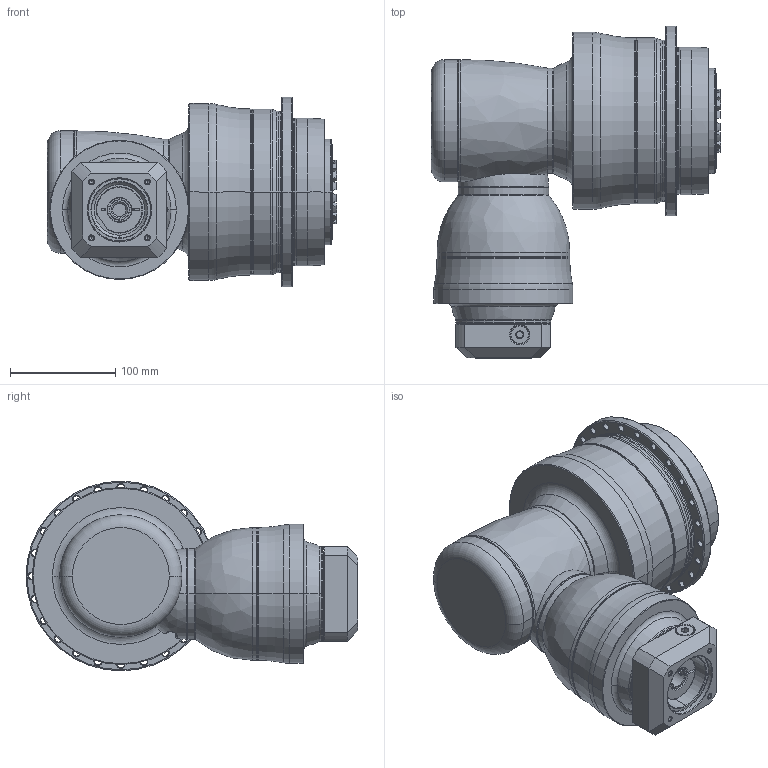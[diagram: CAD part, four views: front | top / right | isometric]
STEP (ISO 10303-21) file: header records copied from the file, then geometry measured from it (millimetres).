
FILE_DESCRIPTION((''),'2;1');
FILE_NAME('APCK140_4ST_19-P0409400201_ASM','2018-05-15T',('d01226'),(''),'PRO/ENGINEER BY PARAMETRIC TECHNOLOGY CORPORATION, 2008410','PRO/ENGINEER BY PARAMETRIC TECHNOLOGY CORPORATION, 2008410','');
FILE_SCHEMA(('CONFIG_CONTROL_DESIGN'));
Length unit declared in the file: millimetre
Products named in the file (13): P1008400002; P1832500001; P0278501003; P03595D0103; P1211500001; P1315400001; P1007401001; P1317410101; P0409400201; P0503400006; P0912302001; 21711412017; APCK140_4ST_19-P0409400201_ASM
Assembly tree (12 placements, depth 2):
  APCK140_4ST_19-P0409400201_ASM
    P1008400002
    P1832500001
    P0278501003
    P03595D0103
    P1211500001
    P1315400001
    P1007401001
    P1317410101
    P0409400201
    P0503400006
    P0912302001
    21711412017
Bounding box: 274.4 x 315 x 180 mm (x, y, z)
Volume: 5226827.8 mm3; surface area: 516769.2 mm2
Topology: 13 solids, 23 shells, 737 faces, 1725 edges, 1045 vertices
Faces by surface type: cone 224, cylinder 221, plane 132, torus 120, bspline 38, sphere 2
Entity records: 27441 total; most frequent: CARTESIAN_POINT 10125, DIRECTION 3871, ORIENTED_EDGE 3380, EDGE_CURVE 1711, AXIS2_PLACEMENT_3D 1697, VERTEX_POINT 1045, CIRCLE 963, EDGE_LOOP 846
